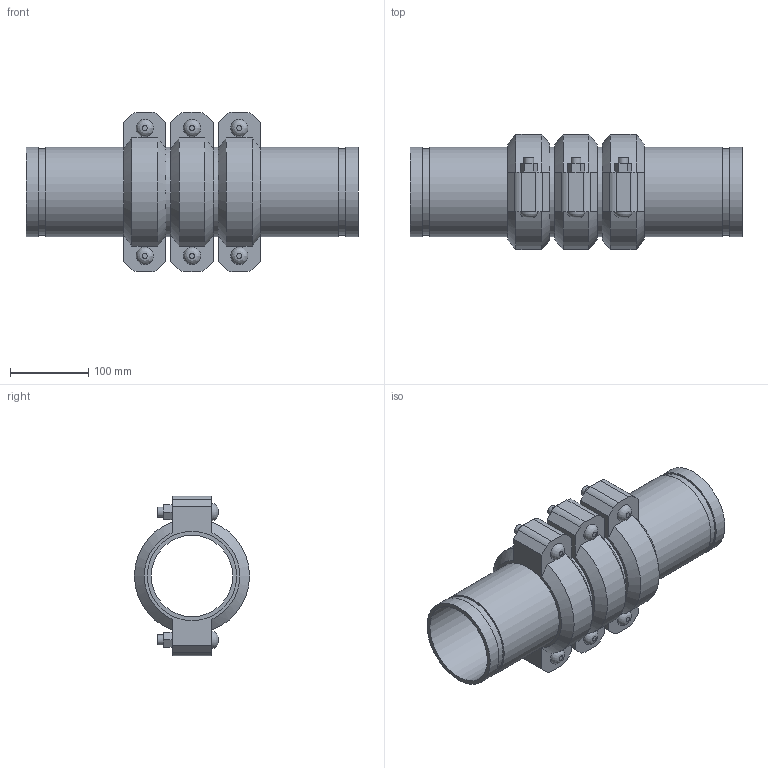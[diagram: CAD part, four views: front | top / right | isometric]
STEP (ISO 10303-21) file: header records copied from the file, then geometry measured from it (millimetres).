
FILE_DESCRIPTION(/* description */ ('VIC SS EXPANSION JOINT 3 COUPLINGS COMPRESSED STYLE 155P (OGS) (POTABLE WATER) ','CAx-IF Rec.Pracs.---Representation and Presentation of Product Manufacturing Information (PMI)---4.0---2014-10-13'),/* implementation_level */ '2;1');
FILE_NAME(/* name */ 'C:\Users\kkamble\AppData\Roaming\Autodesk\ApplicationPlugins\Victaulic.Temp\A254\Victaulic_SS_Expansion Joint_Compressed_3 Couplings_Style 155P (OGS)-Potable Water_3 Coup_Comp_4 (100).stp',/* time_stamp */ '2021-07-16T17:10:51+06:00',/* author */ ('kkamble'),/* organization */ ('Victaulic'),/* preprocessor_version */ 'ST-DEVELOPER v17.2',/* originating_system */ 'Autodesk Inventor 2019',/* authorisation */ '');
FILE_SCHEMA (('AP242_MANAGED_MODEL_BASED_3D_ENGINEERING_MIM_LF { 1 0 10303 442 1 1 4 }'));
Length unit declared in the file: inch
Products named in the file (4): 155P-04.0; Nipple-04.0; Nipple-04.0_1; 075-04.0
Assembly tree (7 placements, depth 2):
  155P-04.0
    Nipple-04.0  x2
    Nipple-04.0_1  x2
    075-04.0  x3
Bounding box: 424.94 x 147.32 x 203.96 mm (x, y, z)
Volume: 2133813.9 mm3; surface area: 543906.4 mm2
Topology: 7 solids, 13 shells, 207 faces, 501 edges, 354 vertices
Faces by surface type: plane 126, cylinder 63, cone 12, bspline 6
Full cylindrical faces by diameter (mm): 12.7 x12, 14.605 x6, 103.988 x4, 110.084 x8, 114.3 x15
Entity records: 2657 total; most frequent: CARTESIAN_POINT 477, DIRECTION 439, ORIENTED_EDGE 374, EDGE_CURVE 187, AXIS2_PLACEMENT_3D 174, VERTEX_POINT 134, EDGE_LOOP 101, LINE 91
